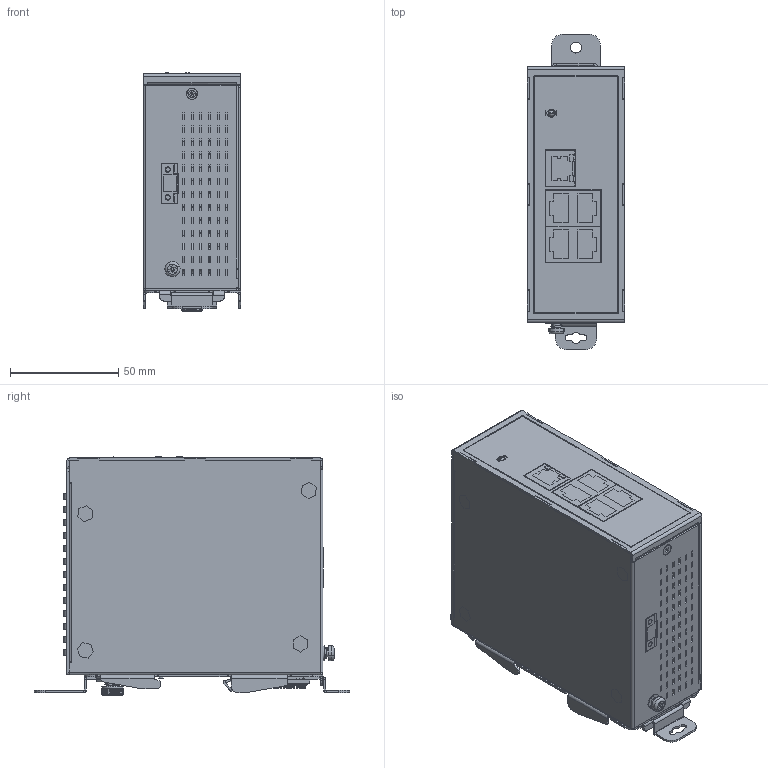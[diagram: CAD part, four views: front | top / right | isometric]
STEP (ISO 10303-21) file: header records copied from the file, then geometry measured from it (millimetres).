
FILE_DESCRIPTION((''),'2;1');
FILE_NAME('DVS-G005I00A-R_ASM','2014-12-08T',('ANDREW.AS.SUN'),(''),'PRO/ENGINEER BY PARAMETRIC TECHNOLOGY CORPORATION, 2010280','PRO/ENGINEER BY PARAMETRIC TECHNOLOGY CORPORATION, 2010280','');
FILE_SCHEMA(('CONFIG_CONTROL_DESIGN'));
Products named in the file (64): 3991141200_BASE-----; STUD_M3_0; STUD_M3_0-S; 3991141200_BASE_ASM; 3991141100_COVER; 3991140700_PANEL; PCB-M-8P; TB293; 307229417C; 307228297C-EM50188GF2NN46PF; 1X1_LED; PCBA_DVS-G005I00A-R_ASM; DVS-G005I00A-R_20130429C; GDTS2R044X050X050-3D9; MF40C120; MS1_4D2_8; MS1_3D2_8; CS2220; CS0805; CS1206; CS0603; SGS1210; DSSMBA; SS2T060X035-5D4; FS2410; CS1812; LS0805; CS0402; CD2C160X200-7D5; CNDPM2-3D81RWB; LS2R103X105X040-9; LS2R073X069X028-6D05; LED1X1A040X050-2K; RS0603; RS0402; DSPOWERDI5-3; XS4R025X032X006A-2D1; IC_SOT143-1D92; LD4R130X170X170-5; CNDH1X6-2D54V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
Assembly tree (281 placements, depth 3):
  DVS-G005I00A-R_ASM
    3991141200_BASE_ASM
      3991141200_BASE-----
      STUD_M3_0  x2
      STUD_M3_0-S  x2
    3991141100_COVER
    3991140700_PANEL
    PCBA_DVS-G005I00A-R_ASM
      PCB-M-8P
      TB293
      307229417C  x2
      307228297C-EM50188GF2NN46PF
      1X1_LED
    DVS-G005I00A-R_20130429C_ASM
      DVS-G005I00A-R_20130429C
      GDTS2R044X050X050-3D9
      MF40C120  x6
      MS1_4D2_8  x2
      MS1_3D2_8  x2
      CS2220
      CS0805  x6
      CS1206  x10
      CS0603  x11
      SGS1210  x9
      DSSMBA  x2
      SS2T060X035-5D4
      FS2410
      CS1812  x4
      LS0805  x4
      CS0402  x79
      CD2C160X200-7D5
      CNDPM2-3D81RWB
      LS2R103X105X040-9
      LS2R073X069X028-6D05
      LED1X1A040X050-2K
      RS0603
      RS0402  x75
      DSPOWERDI5-3
      XS4R025X032X006A-2D1
      IC_SOT143-1D92
      LD4R130X170X170-5
      CNDH1X6-2D54V
      DSSOT-23A-6  x10
      IC_SOIC8A-1D27
      IC_MSOP10A-D5_TPS54260DGQR
      CNDRXL1A-16E
      IC_QFN16-D5_TPS54319
      LFSGST5009LFA-24
      CNDRXL2X1A-32E  x2
      LFD-G4P109NM-ALFA-72
      IC_QFP128-D5
    _DVS-G005I00A-R_20130506_TOPDXF
    3246193300_INSULATOR
    3347156100_HSK
    3205290400_NAMEPLATE
    3534306500_ME-KIT_ASM
      BACK_PLATE_2
      SNAP
      SPRING
    SNAP2_ASM
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Bounding box: 45 x 145.3 x 110.1 mm (x, y, z)
Volume: 169809 mm3; surface area: 227270.6 mm2
Topology: 275 solids, 282 shells, 5106 faces, 12761 edges, 8256 vertices
Faces by surface type: plane 3533, cylinder 1336, bspline 101, cone 94, torus 40, sphere 2
Entity records: 98282 total; most frequent: CARTESIAN_POINT 28411, DIRECTION 14576, ORIENTED_EDGE 13803, EDGE_CURVE 6931, VECTOR 4916, LINE 4916, AXIS2_PLACEMENT_3D 4830, VERTEX_POINT 4391
